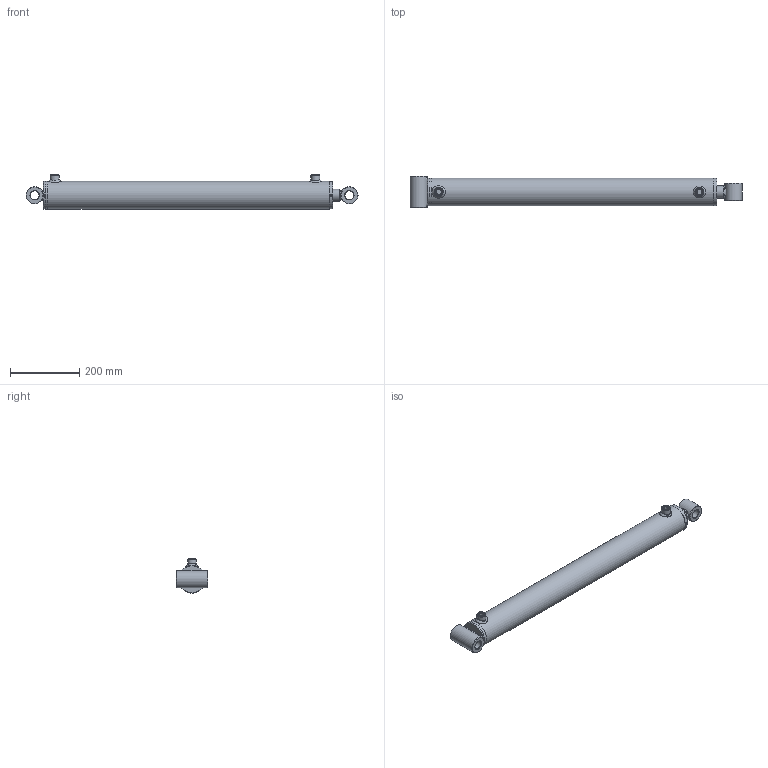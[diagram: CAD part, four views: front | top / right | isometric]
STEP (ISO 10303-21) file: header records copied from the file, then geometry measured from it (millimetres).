
FILE_DESCRIPTION( ( 'Unknown' ), '1' );
FILE_NAME( 'E:/LIBRERIA_3d/CILINDRI/HM2/HM24350700.stp', 'Unknown', ( 'Unknown' ), ( 'Unknown' ), 'PSStep 17.0.49', 'Unknown', ' ' );
FILE_SCHEMA( ( 'AUTOMOTIVE_DESIGN { 1 0 10303 214 1 1 1 1 }' ) );
Length unit declared in the file: millimetre
Products named in the file (26): CT00070020; CG08007035; STL4500700-oa4; Saldatura d'angolo 1-oa2; FTM4500800-oa3; CBSC220600; HM04350700; Saldatura con preparazione 1-oa0; Saldatura d'angolo 1-oa1; CF00070080; CBS0600000; APG0600000; CDA0002015; SBL3530700; Assem1; CB25050050; CB25050090; Saldatura d'angolo 1-oa5; Saldatura d'angolo 2-oa6
Assembly tree (18 placements, depth 4):
  Saldatura d'angolo 1-oa2
  Saldatura d'angolo 1-oa2
  Saldatura d'angolo 1-oa1
  Saldatura d'angolo 1-oa1
  Assem1
    CB25050050
    CB25050090
    HM04350700
      Saldatura con preparazione 1-oa0
      Saldatura con preparazione 1-oa0
      CF00070080
      CBS0600000
      APG0600000  x2
      CDA0002015
      SBL3530700
      CG08007035
        CG08007035
      CT00070020
        CT00070020
      STL4500700-oa4
        FTM4500800-oa3
        CBSC220600
Bounding box: 960 x 90 x 99 mm (x, y, z)
Volume: 2304485.6 mm3; surface area: 623497.8 mm2
Topology: 22 solids, 22 shells, 301 faces, 633 edges, 353 vertices
Faces by surface type: bspline 100, plane 62, cylinder 61, cone 41, torus 37
Full cylindrical faces by diameter (mm): 4.25 x1, 5 x2, 6 x2, 7 x2, 14.95 x2, 16 x2, 16.6 x2, 19.4 x1, 20 x5, 22 x2, 24.5 x1, 25.25 x2, 26 x2, 30 x1, 35 x4, 37 x1, 38 x1, 43.6 x1, 45 x1, 50 x3, 64.18 x2, 65 x1, 68.34 x2, 69.9 x1, 70 x1, 70.3 x1, 70.5 x1, 70.6 x1, 71 x1, 72 x3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
Entity records: 16824 total; most frequent: CARTESIAN_POINT 9674, DIRECTION 818, ORIENTED_EDGE 792, EDGE_LOOP 476, AXIS2_PLACEMENT_3D 397, EDGE_CURVE 396, FACE_OUTER_BOUND 393, VERTEX_POINT 301
